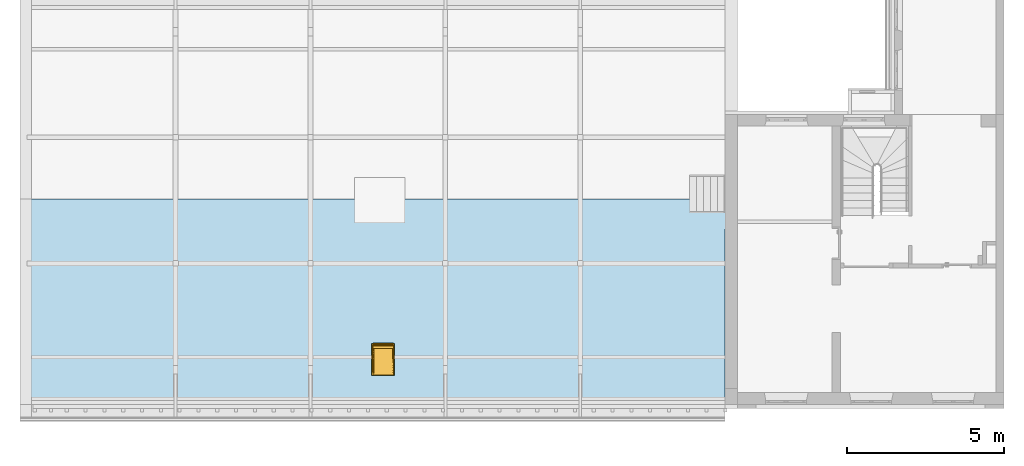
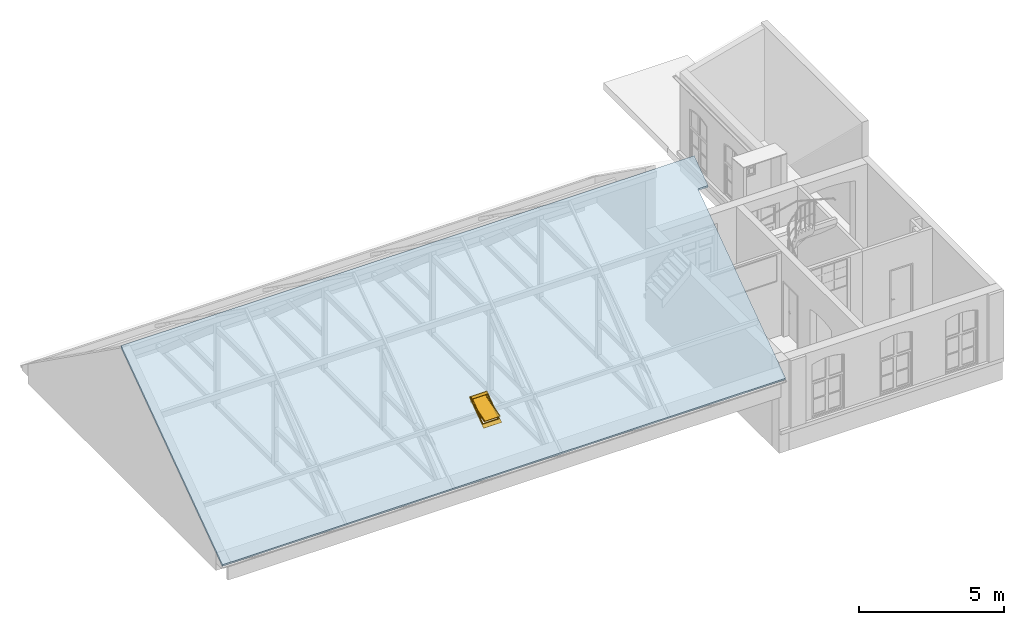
"""IFC4 building model written with IfcOpenShell, lengths in metres."""

import ifcopenshell
import ifcopenshell.guid

model = None  # the IFC model being written
_history = None  # IfcOwnerHistory: only IFC2X3 demands one
_inside = {}  # id of a spatial element -> (the spatial element, [elements in it])
_under = {}  # id of a project, library or spatial element -> (it, [spatial elements below it])
_declared = {}  # id of a project -> (the project, [libraries it declares])
_typed = {}  # id of a type object -> (the type object, [elements of that type])
_made_of = {}  # id of a material, layer set ... -> (it, [elements and type objects made of it])


def new_model(schema):
    """Start an empty IFC model of exactly this schema.

    Asked for "IFC4X3", IfcOpenShell would pick the latest addendum, in which some entities
    have other attributes; the version numbers below select the first issue.
    IFC2X3 requires an IfcOwnerHistory on every rooted entity: one is made here for all.
    """
    global model, _history
    if schema == "IFC4X3":
        model = ifcopenshell.file(schema_version=(4, 3, 0, 0))
    else:
        model = ifcopenshell.file(schema=schema)
    _inside.clear()
    _under.clear()
    _declared.clear()
    _typed.clear()
    _made_of.clear()
    _history = None
    if model.schema == "IFC2X3":
        org = make("IfcOrganization", Name="unknown")
        user = make(
            "IfcPersonAndOrganization",
            ThePerson=make("IfcPerson", FamilyName="unknown"),
            TheOrganization=org,
        )
        app = make(
            "IfcApplication",
            ApplicationDeveloper=org,
            Version="unknown",
            ApplicationFullName="unknown",
            ApplicationIdentifier="unknown",
        )
        _history = make(
            "IfcOwnerHistory",
            OwningUser=user,
            OwningApplication=app,
            ChangeAction="ADDED",
            CreationDate=0,
        )
    return model


def make(cls, **values):
    """One entity of the class cls with the attributes given. An attribute that is None is left unset."""
    return model.create_entity(
        cls, **{name: value for name, value in values.items() if value is not None}
    )


def entity(cls, *values):
    """Any entity or typed value of the class cls, its attributes in the order of the schema. None: left unset."""
    e = model.create_entity(cls)
    for i, value in enumerate(values):
        if value is not None:
            e[i] = value
    return e


def rooted(cls, **values):
    """An entity with a GlobalId (a new one), such as an element, a storey or a relation."""
    return make(cls, GlobalId=ifcopenshell.guid.new(), OwnerHistory=_history, **values)


def si_unit(unit_type, name, prefix=None):
    """IfcSIUnit, for example si_unit("LENGTHUNIT", "METRE", prefix="MILLI")."""
    return make("IfcSIUnit", UnitType=unit_type, Prefix=prefix, Name=name)


def converted_unit(unit_type, name, factor, base, dimensions=None, offset=None):
    """IfcConversionBasedUnit, such as the inch: factor (a typed value) times the base unit."""
    return make(
        "IfcConversionBasedUnit"
        if offset is None
        else "IfcConversionBasedUnitWithOffset",
        ConversionOffset=offset,
        Dimensions=None
        if dimensions is None
        else entity("IfcDimensionalExponents", *dimensions),
        UnitType=unit_type,
        Name=name,
        ConversionFactor=make(
            "IfcMeasureWithUnit", ValueComponent=factor, UnitComponent=base
        ),
    )


def derived_unit(unit_type, elements):
    """IfcDerivedUnit: a product of units, each with its exponent."""
    return make(
        "IfcDerivedUnit",
        Elements=[
            make("IfcDerivedUnitElement", Unit=unit, Exponent=power)
            for unit, power in elements
        ],
        UnitType=unit_type,
    )


def assignment(units):
    """IfcUnitAssignment: the units of a project."""
    return None if units is None else make("IfcUnitAssignment", Units=units)


def point(xyz):
    """IfcCartesianPoint."""
    return None if xyz is None else make("IfcCartesianPoint", Coordinates=xyz)


def direction(xyz):
    """IfcDirection."""
    return None if xyz is None else make("IfcDirection", DirectionRatios=xyz)


def frame(location, z_axis=None, x_axis=None):
    """IfcAxis2Placement3D, a coordinate frame: its origin and axes. An axis left out is left unset."""
    return make(
        "IfcAxis2Placement3D",
        Location=point(location),
        Axis=direction(z_axis),
        RefDirection=direction(x_axis),
    )


def frame_2d(location, x_axis=None):
    """IfcAxis2Placement2D, a coordinate frame in the plane: its origin and x axis."""
    return make(
        "IfcAxis2Placement2D", Location=point(location), RefDirection=direction(x_axis)
    )


def origin():
    """The frame at (0, 0, 0) with its axes left unset."""
    return frame((0.0, 0.0, 0.0))


def origin_with_axes():
    """The frame at (0, 0, 0) with the z axis (0, 0, 1) and the x axis (1, 0, 0) written out."""
    return frame((0.0, 0.0, 0.0), z_axis=(0.0, 0.0, 1.0), x_axis=(1.0, 0.0, 0.0))


def place(relative_to, where):
    """IfcLocalPlacement: puts the frame where relative to a parent placement (None: the world)."""
    return make(
        "IfcLocalPlacement", PlacementRelTo=relative_to, RelativePlacement=where
    )


def context(
    kind, dimensions, precision=None, world=None, true_north=None, identifier=None
):
    """IfcGeometricRepresentationContext, for example the 3D "Model" context."""
    return make(
        "IfcGeometricRepresentationContext",
        ContextIdentifier=identifier,
        ContextType=kind,
        CoordinateSpaceDimension=dimensions,
        Precision=precision,
        WorldCoordinateSystem=world,
        TrueNorth=true_north,
    )


def subcontext(parent, identifier, kind, view, scale=None):
    """IfcGeometricRepresentationSubContext, for example "Body" below "Model"."""
    return make(
        "IfcGeometricRepresentationSubContext",
        ContextIdentifier=identifier,
        ContextType=kind,
        ParentContext=parent,
        TargetScale=scale,
        TargetView=view,
    )


def project(units=None, contexts=None):
    """IfcProject with its units and contexts."""
    return rooted(
        "IfcProject",
        Name="project",
        RepresentationContexts=contexts,
        UnitsInContext=assignment(units),
    )


def spatial(cls, under=None, at=None, **own):
    """A site, building, storey or space (cls), placed at a placement, below another one or the project."""
    s = rooted(cls, ObjectPlacement=at, **own)
    if under is not None:
        _under.setdefault(under.id(), (under, []))[1].append(s)
    return s


def profile(cls, at=None, kind="AREA", **sizes):
    """A parametric profile (cls). Its sizes go by their IFC names, for example OverallWidth=200.0."""
    return make(cls, ProfileType=kind, Position=at, **sizes)


def rectangle(**sizes):
    """IfcRectangleProfileDef."""
    return profile("IfcRectangleProfileDef", **sizes)


def extrude(swept, where, along, depth):
    """IfcExtrudedAreaSolid: the profile swept, set in the frame where, extruded along a direction by depth."""
    return make(
        "IfcExtrudedAreaSolid",
        SweptArea=swept,
        Position=where,
        ExtrudedDirection=direction(along),
        Depth=depth,
    )


def faces_of(points, faces, orient=None, outer=None):
    """IfcFace entities. A face is a list of loops; a loop is a list of indices into points, from 0.

    orient and outer hold one flag for each loop. By default every Orientation is true, the
    first loop of a face is its IfcFaceOuterBound and the others are IfcFaceBound.
    """
    made = []
    for i, loops in enumerate(faces):
        bounds = []
        for j, loop in enumerate(loops):
            is_outer = j == 0 if outer is None else outer[i][j]
            bounds.append(
                make(
                    "IfcFaceOuterBound" if is_outer else "IfcFaceBound",
                    Bound=make("IfcPolyLoop", Polygon=[points[k] for k in loop]),
                    Orientation=True if orient is None else orient[i][j],
                )
            )
        made.append(make("IfcFace", Bounds=bounds))
    return made


def closed_shell(faces, orient=None, outer=None):
    """The faces of one IfcClosedShell. faceted_brep and surface_model build it on their shared points."""
    return ("IfcClosedShell", faces, orient, outer)


def open_shell(faces, orient=None, outer=None):
    """The faces of one IfcOpenShell. surface_model builds it on its shared points."""
    return ("IfcOpenShell", faces, orient, outer)


def faceted_brep(points, faces, orient=None, outer=None, voids=None):
    """IfcFacetedBrep: a solid bounded by flat faces; with voids (closed shells), ...WithVoids."""
    shared = [point(p) for p in points]
    hull = make("IfcClosedShell", CfsFaces=faces_of(shared, faces, orient, outer))
    if voids is None:
        return make("IfcFacetedBrep", Outer=hull)
    return make(
        "IfcFacetedBrepWithVoids",
        Outer=hull,
        Voids=[
            make(cls, CfsFaces=faces_of(shared, fs, o, b)) for cls, fs, o, b in voids
        ],
    )


def surface_model(cls, points, shells):
    """IfcFaceBasedSurfaceModel or IfcShellBasedSurfaceModel (cls): surfaces that need not close."""
    shared = [point(p) for p in points]
    made = [make(c, CfsFaces=faces_of(shared, fs, o, b)) for c, fs, o, b in shells]
    if cls == "IfcFaceBasedSurfaceModel":
        return make(cls, FbsmFaces=made)
    return make(cls, SbsmBoundary=made)


def shape(context_of_items, identifier, shape_type, items):
    """IfcShapeRepresentation: the items that make up one representation, for example the "Body"."""
    return make(
        "IfcShapeRepresentation",
        ContextOfItems=context_of_items,
        RepresentationIdentifier=identifier,
        RepresentationType=shape_type,
        Items=items,
    )


def source(mapping_origin, context_of_items, identifier, shape_type, items):
    """IfcRepresentationMap: a shape defined once, which mapped items show again and again."""
    return make(
        "IfcRepresentationMap",
        MappingOrigin=mapping_origin,
        MappedRepresentation=shape(context_of_items, identifier, shape_type, items),
    )


def transform(
    local_origin,
    x_axis=None,
    y_axis=None,
    z_axis=None,
    scale=None,
    scale2=None,
    scale3=None,
    uniform=True,
):
    """IfcCartesianTransformationOperator3D, or its non-uniform kind. x_axis, y_axis, z_axis: its Axis1, 2, 3."""
    if uniform:
        return make(
            "IfcCartesianTransformationOperator3D",
            Axis1=direction(x_axis),
            Axis2=direction(y_axis),
            LocalOrigin=point(local_origin),
            Scale=scale,
            Axis3=direction(z_axis),
        )
    return make(
        "IfcCartesianTransformationOperator3DnonUniform",
        Axis1=direction(x_axis),
        Axis2=direction(y_axis),
        LocalOrigin=point(local_origin),
        Scale=scale,
        Axis3=direction(z_axis),
        Scale2=scale2,
        Scale3=scale3,
    )


def mapped(mapping_source, mapping_target):
    """IfcMappedItem: shows the shape of a source again, moved by a transform."""
    return make(
        "IfcMappedItem", MappingSource=mapping_source, MappingTarget=mapping_target
    )


def made_of(thing, what):
    """Note that an element or type object is made of a material, layer set ...; save() writes the relation."""
    if what is not None:
        _made_of.setdefault(what.id(), (what, []))[1].append(thing)
    return thing


def element(
    cls,
    number,
    at=None,
    inside=None,
    cuts=None,
    type_object=None,
    material=None,
    context=None,
    identifier="Body",
    shape_type=None,
    held_by="IfcProductDefinitionShape",
    body=None,
    shapes=None,
    **own,
):
    """One element of the class cls, such as IfcWall. Its Tag is "e" and its number.

    at: its placement. inside: the storey or other place that contains it. cuts: it is an
    opening in that element (IfcRelVoidsElement). A single representation is given by context,
    identifier, shape_type and body (its items); several are given by shapes. held_by: the class
    of the entity that holds the representations. save() writes the other relations.
    """
    e = rooted(cls, Tag="e%d" % number, ObjectPlacement=at, **own)
    if body is not None:
        shapes = [shape(context, identifier, shape_type, body)]
    if shapes is not None:
        e.Representation = make(held_by, Representations=shapes)
    if inside is not None:
        _inside.setdefault(inside.id(), (inside, []))[1].append(e)
    if cuts is not None:
        rooted(
            "IfcRelVoidsElement", RelatingBuildingElement=cuts, RelatedOpeningElement=e
        )
    if type_object is not None:
        _typed.setdefault(type_object.id(), (type_object, []))[1].append(e)
    return made_of(e, material)


def fill(opening, filler):
    """IfcRelFillsElement: the door or window that sits in an opening."""
    return rooted(
        "IfcRelFillsElement",
        RelatingOpeningElement=opening,
        RelatedBuildingElement=filler,
    )


def aggregate(whole, parts):
    """IfcRelAggregates: a whole, such as a stair, and the parts it consists of."""
    return rooted("IfcRelAggregates", RelatingObject=whole, RelatedObjects=parts)


def save(model, path):
    """Write the relations noted so far, then the file.

    IfcRelAggregates (storeys below a building ...), IfcRelContainedInSpatialStructure (elements
    in a storey), IfcRelDefinesByType, IfcRelAssociatesMaterial and IfcRelDeclares: one each for
    every whole, place, type object, material and project.
    """
    for whole, parts in _under.values():
        aggregate(whole, parts)
    for where, things in _inside.values():
        rooted(
            "IfcRelContainedInSpatialStructure",
            RelatedElements=things,
            RelatingStructure=where,
        )
    for kind, things in _typed.values():
        rooted("IfcRelDefinesByType", RelatedObjects=things, RelatingType=kind)
    for what, things in _made_of.values():
        rooted("IfcRelAssociatesMaterial", RelatedObjects=things, RelatingMaterial=what)
    for by, libraries in _declared.values():
        rooted("IfcRelDeclares", RelatingContext=by, RelatedDefinitions=libraries)
    model.write(path)


model = new_model("IFC4")

# Units and contexts
model_context = context("Model", 3, precision=1e-05, world=origin())
body_context = subcontext(model_context, "Body", "Model", "MODEL_VIEW")
ifc_project = project(units=[si_unit("LENGTHUNIT", "METRE"), si_unit("AREAUNIT", "SQUARE_METRE"), si_unit("VOLUMEUNIT", "CUBIC_METRE"), si_unit("MASSUNIT", "GRAM", prefix="KILO"), converted_unit("PLANEANGLEUNIT", "DEGREE", entity("IfcPlaneAngleMeasure", 0.0174532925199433), si_unit("PLANEANGLEUNIT", "RADIAN"), dimensions=[0, 0, 0, 0, 0, 0, 0]), derived_unit("THERMALTRANSMITTANCEUNIT", [(si_unit("POWERUNIT", "WATT"), 1), (si_unit("THERMODYNAMICTEMPERATUREUNIT", "KELVIN"), -1), (si_unit("LENGTHUNIT", "METRE"), -2)]), derived_unit("VOLUMETRICFLOWRATEUNIT", [(si_unit("LENGTHUNIT", "METRE"), 3), (converted_unit("TIMEUNIT", "hour", entity("IfcTimeMeasure", 3600.0), si_unit("TIMEUNIT", "SECOND"), dimensions=[0, 0, 1, 0, 0, 0, 0]), -1), (si_unit("LENGTHUNIT", "METRE"), -1)])], contexts=[model_context])

# Building, storeys
building_placement = place(None, origin())
building = spatial("IfcBuilding", under=ifc_project, at=building_placement, Name="Bestandsgebäude A - Sporthalle / Wohnhaus (TB 100-499)   ANPASSEN !!!", CompositionType="ELEMENT")
storey_1_placement = place(building_placement, frame((0.0, 0.0, 3.87)))
storey_1 = spatial("IfcBuildingStorey", under=building, at=storey_1_placement, Name="Geb. A 1. Obergeschoss (TB 250-299)", CompositionType="ELEMENT", Elevation=3.87)
storey_2_placement = place(storey_1_placement, frame((0.0, 0.0, 3.87)))
storey_2 = spatial("IfcBuildingStorey", under=storey_1, at=storey_2_placement, Name="Architektur (TB 250-259)", CompositionType="PARTIAL")

# Roof, slab, opening, window
roof_placement = place(storey_2_placement, frame((0.0, 0.0, -7.74)))
roof = element("IfcRoof", 1, at=roof_placement, inside=storey_2, PredefinedType="NOTDEFINED")
slab_placement = place(roof_placement, frame((-31.3703148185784, -0.453195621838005, 6.85488719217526)))
slab = element("IfcSlab", 2, at=slab_placement, PredefinedType="ROOF", context=body_context, shape_type="Brep", body=[
    faceted_brep([(0.0, 7.01291443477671, 4.96182439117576), (0.000315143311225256, 0.0464107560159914, 0.0), (22.4705579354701, 0.0499999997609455, 0.00255640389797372), (22.4704045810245, 6.10341097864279, 4.31403941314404), (22.8703148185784, 6.10341097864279, 4.31403941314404), (22.8703148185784, 7.01291526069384, 4.96182497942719), (11.9017244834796, 1.55984100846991, 1.07792595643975), (11.2517244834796, 1.55984100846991, 1.07792595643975), (11.2517244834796, 2.41508777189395, 1.68706713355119), (11.9017244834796, 2.41508777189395, 1.68706713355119), (0.0, 7.01291443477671, 5.06004165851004), (22.8703148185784, 7.01291526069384, 5.06004224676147), (22.8703148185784, 6.05700022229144, 4.37920107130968), (22.4704057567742, 6.05700022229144, 4.37920107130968), (22.4705591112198, 0.00358924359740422, 0.0677180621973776), (0.000317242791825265, 0.0, 0.065161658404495), (11.2517244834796, 1.51343025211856, 1.14308761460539), (11.9017244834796, 1.51343025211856, 1.14308761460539), (11.9017244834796, 2.3686770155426, 1.75222879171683), (11.2517244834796, 2.3686770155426, 1.75222879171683), (0.000317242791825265, 0.0, 0.0), (22.4704057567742, 6.05700022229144, 4.31403941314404), (22.4705591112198, 0.00358924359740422, 0.00255640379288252), (22.8703148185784, 6.05700022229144, 4.31403941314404)], [[[0, 1, 2, 3, 4, 5], [6, 7, 8, 9]], [[10, 11, 12, 13, 14, 15], [16, 17, 18, 19]], [[10, 15, 20, 1, 0]], [[14, 13, 21, 3, 2, 22]], [[12, 11, 5, 4, 23]], [[11, 10, 0, 5]], [[20, 22, 2, 1]], [[15, 14, 22, 20]], [[21, 23, 4, 3]], [[13, 12, 23, 21]], [[16, 7, 6, 17]], [[18, 9, 8, 19]], [[16, 19, 8, 7]], [[18, 17, 6, 9]]], orient=[[False, False], [False, False], [False], [False], [False], [False], [False], [False], [False], [False], [False], [False], [False], [False]]),
])
opening_placement = place(slab_placement, frame((11.2517244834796, 1.51343025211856, 1.14308761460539), z_axis=(-2.34464702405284e-16, -0.58013445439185, 0.814520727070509), x_axis=(-1.0, 4.04155796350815e-16, 0.0)))
opening = element("IfcOpeningElement", 3, at=opening_placement, cuts=slab, Name="Skylight", ObjectType="Opening", context=body_context, shape_type="SweptSolid", body=[
    extrude(rectangle(XDim=0.65, YDim=1.05, at=frame_2d((-0.325, -0.525), x_axis=(-1.0, 3.49805654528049e-16))), origin_with_axes(), (0.0, 0.0, -1.0), 0.08),
])
shared_shape = source(origin_with_axes(), body_context, "Body", "SurfaceModel", [
    surface_model("IfcShellBasedSurfaceModel", [(0.03, 0.15, 0.226476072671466), (0.03, 0.15, 0.266476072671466), (0.049999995, 0.15, 0.266476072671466), (0.049999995, 0.15, 0.226476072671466), (0.03, 1.22, 0.266476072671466), (0.03, 1.22, 0.226476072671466), (0.049999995, 1.22, 0.226476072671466), (0.049999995, 1.22, 0.266476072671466)], [closed_shell([[[0, 1, 2, 3]], [[4, 5, 6, 7]], [[1, 0, 5, 4]], [[2, 1, 4, 7]], [[3, 2, 7, 6]], [[0, 3, 6, 5]]], orient=[[False], [False], [False], [False], [False], [False]])]),
    surface_model("IfcShellBasedSurfaceModel", [(0.680000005, 0.15, 0.226476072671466), (0.680000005, 0.15, 0.266476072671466), (0.7, 0.15, 0.266476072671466), (0.7, 0.15, 0.226476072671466), (0.680000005, 1.22, 0.266476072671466), (0.680000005, 1.22, 0.226476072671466), (0.7, 1.22, 0.226476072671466), (0.7, 1.22, 0.266476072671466)], [closed_shell([[[0, 1, 2, 3]], [[4, 5, 6, 7]], [[1, 0, 5, 4]], [[2, 1, 4, 7]], [[3, 2, 7, 6]], [[0, 3, 6, 5]]], orient=[[False], [False], [False], [False], [False], [False]])]),
    surface_model("IfcShellBasedSurfaceModel", [(0.049999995, 0.15, 0.226476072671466), (0.049999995, 0.15, 0.261476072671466), (0.680000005, 0.15, 0.261476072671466), (0.680000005, 0.15, 0.226476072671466), (0.049999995, 0.169999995, 0.261476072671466), (0.049999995, 0.169999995, 0.226476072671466), (0.680000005, 0.169999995, 0.226476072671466), (0.680000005, 0.169999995, 0.261476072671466)], [closed_shell([[[0, 1, 2, 3]], [[4, 5, 6, 7]], [[1, 0, 5, 4]], [[2, 1, 4, 7]], [[3, 2, 7, 6]], [[0, 3, 6, 5]]], orient=[[False], [False], [False], [False], [False], [False]])]),
    surface_model("IfcShellBasedSurfaceModel", [(0.049999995, 1.200000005, 0.226476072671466), (0.049999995, 1.200000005, 0.266476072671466), (0.680000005, 1.200000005, 0.266476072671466), (0.680000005, 1.200000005, 0.226476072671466), (0.049999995, 1.22, 0.266476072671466), (0.049999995, 1.22, 0.226476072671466), (0.680000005, 1.22, 0.226476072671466), (0.680000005, 1.22, 0.266476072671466)], [closed_shell([[[0, 1, 2, 3]], [[4, 5, 6, 7]], [[1, 0, 5, 4]], [[2, 1, 4, 7]], [[3, 2, 7, 6]], [[0, 3, 6, 5]]], orient=[[False], [False], [False], [False], [False], [False]])]),
    surface_model("IfcShellBasedSurfaceModel", [(0.0, 0.0, 0.226476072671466), (0.0, 0.0, 0.231476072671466), (0.03, 0.0, 0.231476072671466), (0.03, 0.0, 0.226476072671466), (0.0, 1.22, 0.231476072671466), (0.0, 1.22, 0.226476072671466), (0.03, 1.22, 0.226476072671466), (0.03, 1.22, 0.231476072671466)], [closed_shell([[[0, 1, 2, 3]], [[4, 5, 6, 7]], [[1, 0, 5, 4]], [[2, 1, 4, 7]], [[3, 2, 7, 6]], [[0, 3, 6, 5]]], orient=[[False], [False], [False], [False], [False], [False]])]),
    surface_model("IfcShellBasedSurfaceModel", [(0.03, 0.0, 0.226476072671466), (0.03, 0.0, 0.231476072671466), (0.7, 0.0, 0.231476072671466), (0.7, 0.0, 0.226476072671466), (0.03, 0.15, 0.231476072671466), (0.03, 0.15, 0.226476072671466), (0.7, 0.15, 0.226476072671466), (0.7, 0.15, 0.231476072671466)], [closed_shell([[[0, 1, 2, 3]], [[4, 5, 6, 7]], [[1, 0, 5, 4]], [[2, 1, 4, 7]], [[3, 2, 7, 6]], [[0, 3, 6, 5]]], orient=[[False], [False], [False], [False], [False], [False]])]),
    surface_model("IfcShellBasedSurfaceModel", [(0.7, 0.0, 0.226476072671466), (0.7, 0.0, 0.231476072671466), (0.73, 0.0, 0.231476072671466), (0.73, 0.0, 0.226476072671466), (0.7, 1.22, 0.231476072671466), (0.7, 1.22, 0.226476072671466), (0.73, 1.22, 0.226476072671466), (0.73, 1.22, 0.231476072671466)], [closed_shell([[[0, 1, 2, 3]], [[4, 5, 6, 7]], [[1, 0, 5, 4]], [[2, 1, 4, 7]], [[3, 2, 7, 6]], [[0, 3, 6, 5]]], orient=[[False], [False], [False], [False], [False], [False]])]),
    surface_model("IfcShellBasedSurfaceModel", [(0.0, 1.22, 0.226476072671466), (0.0, 1.22, 0.231476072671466), (0.73, 1.22, 0.231476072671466), (0.73, 1.22, 0.226476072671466), (0.0, 1.25, 0.231476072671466), (0.0, 1.25, 0.226476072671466), (0.73, 1.25, 0.226476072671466), (0.73, 1.25, 0.231476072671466)], [closed_shell([[[0, 1, 2, 3]], [[4, 5, 6, 7]], [[1, 0, 5, 4]], [[2, 1, 4, 7]], [[3, 2, 7, 6]], [[0, 3, 6, 5]]], orient=[[False], [False], [False], [False], [False], [False]])]),
    surface_model("IfcShellBasedSurfaceModel", [(0.049999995, 0.17999999, 0.226476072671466), (0.049999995, 0.17999999, 0.266476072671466), (0.05999999, 0.17999999, 0.266476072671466), (0.05999999, 0.17999999, 0.126476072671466), (0.04, 0.17999999, 0.126476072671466), (0.04, 0.17999999, 0.226476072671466), (0.049999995, 1.19000001, 0.266476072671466), (0.049999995, 1.19000001, 0.226476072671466), (0.04, 1.19000001, 0.226476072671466), (0.04, 1.19000001, 0.126476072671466), (0.05999999, 1.19000001, 0.126476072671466), (0.05999999, 1.19000001, 0.266476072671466)], [closed_shell([[[0, 1, 2, 3, 4, 5]], [[6, 7, 8, 9, 10, 11]], [[1, 0, 7, 6]], [[2, 1, 6, 11]], [[3, 2, 11, 10]], [[4, 3, 10, 9]], [[5, 4, 9, 8]], [[0, 5, 8, 7]]], orient=[[False], [False], [False], [False], [False], [False], [False], [False]])]),
    surface_model("IfcShellBasedSurfaceModel", [(0.67000001, 0.17999999, 0.126476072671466), (0.67000001, 0.17999999, 0.266476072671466), (0.680000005, 0.17999999, 0.266476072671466), (0.680000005, 0.17999999, 0.226476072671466), (0.69, 0.17999999, 0.226476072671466), (0.69, 0.17999999, 0.126476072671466), (0.67000001, 1.19000001, 0.266476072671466), (0.67000001, 1.19000001, 0.126476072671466), (0.69, 1.19000001, 0.126476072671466), (0.69, 1.19000001, 0.226476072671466), (0.680000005, 1.19000001, 0.226476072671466), (0.680000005, 1.19000001, 0.266476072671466)], [closed_shell([[[0, 1, 2, 3, 4, 5]], [[6, 7, 8, 9, 10, 11]], [[1, 0, 7, 6]], [[2, 1, 6, 11]], [[3, 2, 11, 10]], [[4, 3, 10, 9]], [[5, 4, 9, 8]], [[0, 5, 8, 7]]], orient=[[False], [False], [False], [False], [False], [False], [False], [False]])]),
    surface_model("IfcShellBasedSurfaceModel", [(0.04, 0.17999999, 0.261476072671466), (0.04, 0.169999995, 0.261476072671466), (0.04, 0.169999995, 0.226476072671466), (0.04, 0.16, 0.226476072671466), (0.04, 0.16, 0.126476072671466), (0.04, 0.17999999, 0.126476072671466), (0.69, 0.169999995, 0.261476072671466), (0.69, 0.17999999, 0.261476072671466), (0.69, 0.17999999, 0.126476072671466), (0.69, 0.16, 0.126476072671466), (0.69, 0.16, 0.226476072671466), (0.69, 0.169999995, 0.226476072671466)], [closed_shell([[[0, 1, 2, 3, 4, 5]], [[6, 7, 8, 9, 10, 11]], [[1, 0, 7, 6]], [[2, 1, 6, 11]], [[3, 2, 11, 10]], [[4, 3, 10, 9]], [[5, 4, 9, 8]], [[0, 5, 8, 7]]], orient=[[False], [False], [False], [False], [False], [False], [False], [False]])]),
    surface_model("IfcShellBasedSurfaceModel", [(0.04, 1.200000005, 0.266476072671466), (0.04, 1.19000001, 0.266476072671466), (0.04, 1.19000001, 0.126476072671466), (0.04, 1.21, 0.126476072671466), (0.04, 1.21, 0.226476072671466), (0.04, 1.200000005, 0.226476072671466), (0.69, 1.19000001, 0.266476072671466), (0.69, 1.200000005, 0.266476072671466), (0.69, 1.200000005, 0.226476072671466), (0.69, 1.21, 0.226476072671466), (0.69, 1.21, 0.126476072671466), (0.69, 1.19000001, 0.126476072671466)], [closed_shell([[[0, 1, 2, 3, 4, 5]], [[6, 7, 8, 9, 10, 11]], [[1, 0, 7, 6]], [[2, 1, 6, 11]], [[3, 2, 11, 10]], [[4, 3, 10, 9]], [[5, 4, 9, 8]], [[0, 5, 8, 7]]], orient=[[False], [False], [False], [False], [False], [False], [False], [False]])]),
    surface_model("IfcShellBasedSurfaceModel", [(0.03999999, 0.685, 0.266476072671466), (0.03999999, 0.685, 0.281476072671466), (0.06999999, 0.685, 0.281476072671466), (0.06999999, 0.685, 0.266476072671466), (0.03999999, 1.19000001, 0.281476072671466), (0.03999999, 1.19000001, 0.266476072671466), (0.06999999, 1.19000001, 0.266476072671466), (0.06999999, 1.19000001, 0.281476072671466)], [closed_shell([[[0, 1, 2, 3]], [[4, 5, 6, 7]], [[1, 0, 5, 4]], [[2, 1, 4, 7]], [[3, 2, 7, 6]], [[0, 3, 6, 5]]], orient=[[False], [False], [False], [False], [False], [False]])]),
    surface_model("IfcShellBasedSurfaceModel", [(0.66000001, 0.685, 0.266476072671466), (0.66000001, 0.685, 0.281476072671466), (0.69000001, 0.685, 0.281476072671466), (0.69000001, 0.685, 0.266476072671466), (0.66000001, 1.19000001, 0.281476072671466), (0.66000001, 1.19000001, 0.266476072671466), (0.69000001, 1.19000001, 0.266476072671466), (0.69000001, 1.19000001, 0.281476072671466)], [closed_shell([[[0, 1, 2, 3]], [[4, 5, 6, 7]], [[1, 0, 5, 4]], [[2, 1, 4, 7]], [[3, 2, 7, 6]], [[0, 3, 6, 5]]], orient=[[False], [False], [False], [False], [False], [False]])]),
    surface_model("IfcShellBasedSurfaceModel", [(0.04, 1.11000001, 0.266476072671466), (0.04, 1.11000001, 0.306476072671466), (0.69, 1.11000001, 0.306476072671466), (0.69, 1.11000001, 0.266476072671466), (0.04, 1.21, 0.306476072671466), (0.04, 1.21, 0.266476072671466), (0.69, 1.21, 0.266476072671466), (0.69, 1.21, 0.306476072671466)], [closed_shell([[[0, 1, 2, 3]], [[4, 5, 6, 7]], [[1, 0, 5, 4]], [[2, 1, 4, 7]], [[3, 2, 7, 6]], [[0, 3, 6, 5]]], orient=[[False], [False], [False], [False], [False], [False]])]),
    surface_model("IfcShellBasedSurfaceModel", [(0.07999998, 0.218329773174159, 0.41470583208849), (0.65000002, 0.218329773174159, 0.41470583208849), (0.65000002, 1.08379123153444, 0.133500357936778), (0.07999998, 1.08379123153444, 0.133500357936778)], [open_shell([[[0, 1, 2, 3]]], orient=[[False]])]),
    surface_model("IfcShellBasedSurfaceModel", [(0.069999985, 0.208046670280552, 0.415418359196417), (0.069999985, 0.209591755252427, 0.420173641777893), (0.07999998, 0.209591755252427, 0.420173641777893), (0.07999998, 0.208046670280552, 0.415418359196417), (0.069999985, 1.09407433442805, 0.132787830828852), (0.069999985, 1.09252924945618, 0.128032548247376), (0.07999998, 1.09252924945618, 0.128032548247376), (0.07999998, 1.09407433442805, 0.132787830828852)], [closed_shell([[[0, 1, 2, 3]], [[4, 5, 6, 7]], [[1, 0, 5, 4]], [[2, 1, 4, 7]], [[3, 2, 7, 6]], [[0, 3, 6, 5]]], orient=[[False], [False], [False], [False], [False], [False]])]),
    surface_model("IfcShellBasedSurfaceModel", [(0.65000002, 0.208046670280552, 0.415418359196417), (0.65000002, 0.209591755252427, 0.420173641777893), (0.660000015, 0.209591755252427, 0.420173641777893), (0.660000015, 0.208046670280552, 0.415418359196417), (0.65000002, 1.09407433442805, 0.132787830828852), (0.65000002, 1.09252924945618, 0.128032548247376), (0.660000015, 1.09252924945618, 0.128032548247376), (0.660000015, 1.09407433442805, 0.132787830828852)], [closed_shell([[[0, 1, 2, 3]], [[4, 5, 6, 7]], [[1, 0, 5, 4]], [[2, 1, 4, 7]], [[3, 2, 7, 6]], [[0, 3, 6, 5]]], orient=[[False], [False], [False], [False], [False], [False]])]),
    surface_model("IfcShellBasedSurfaceModel", [(0.07999998, 0.208046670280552, 0.415418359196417), (0.07999998, 0.209591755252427, 0.420173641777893), (0.65000002, 0.209591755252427, 0.420173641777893), (0.65000002, 0.208046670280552, 0.415418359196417), (0.07999998, 0.219102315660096, 0.417083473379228), (0.07999998, 0.217557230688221, 0.412328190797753), (0.65000002, 0.217557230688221, 0.412328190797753), (0.65000002, 0.219102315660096, 0.417083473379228)], [closed_shell([[[0, 1, 2, 3]], [[4, 5, 6, 7]], [[1, 0, 5, 4]], [[2, 1, 4, 7]], [[3, 2, 7, 6]], [[0, 3, 6, 5]]], orient=[[False], [False], [False], [False], [False], [False]])]),
    surface_model("IfcShellBasedSurfaceModel", [(0.07999998, 1.08301868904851, 0.131122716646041), (0.07999998, 1.08456377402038, 0.135877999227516), (0.65000002, 1.08456377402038, 0.135877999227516), (0.65000002, 1.08301868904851, 0.131122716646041), (0.07999998, 1.09407433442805, 0.132787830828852), (0.07999998, 1.09252924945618, 0.128032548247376), (0.65000002, 1.09252924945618, 0.128032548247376), (0.65000002, 1.09407433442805, 0.132787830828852)], [closed_shell([[[0, 1, 2, 3]], [[4, 5, 6, 7]], [[1, 0, 5, 4]], [[2, 1, 4, 7]], [[3, 2, 7, 6]], [[0, 3, 6, 5]]], orient=[[False], [False], [False], [False], [False], [False]])]),
    surface_model("IfcShellBasedSurfaceModel", [(0.05999999, 0.175359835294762, 0.347179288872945), (0.05999999, 0.200081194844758, 0.423263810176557), (0.069999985, 0.200081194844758, 0.423263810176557), (0.069999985, 0.198536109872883, 0.418508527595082), (0.07999998, 0.198536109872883, 0.418508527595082), (0.07999998, 0.175359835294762, 0.347179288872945), (0.05999999, 1.16064829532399, 0.111156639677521), (0.05999999, 1.135926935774, 0.0350721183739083), (0.07999998, 1.135926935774, 0.0350721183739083), (0.07999998, 1.15910321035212, 0.106401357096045), (0.069999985, 1.15910321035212, 0.106401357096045), (0.069999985, 1.16064829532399, 0.111156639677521)], [closed_shell([[[0, 1, 2, 3, 4, 5]], [[6, 7, 8, 9, 10, 11]], [[1, 0, 7, 6]], [[2, 1, 6, 11]], [[3, 2, 11, 10]], [[4, 3, 10, 9]], [[5, 4, 9, 8]], [[0, 5, 8, 7]]], orient=[[False], [False], [False], [False], [False], [False], [False], [False]])]),
    surface_model("IfcShellBasedSurfaceModel", [(0.660000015, 0.198536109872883, 0.418508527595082), (0.660000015, 0.200081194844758, 0.423263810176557), (0.67000001, 0.200081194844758, 0.423263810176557), (0.67000001, 0.175359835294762, 0.347179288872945), (0.65000002, 0.175359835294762, 0.347179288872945), (0.65000002, 0.198536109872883, 0.418508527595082), (0.660000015, 1.16064829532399, 0.111156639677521), (0.660000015, 1.15910321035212, 0.106401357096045), (0.65000002, 1.15910321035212, 0.106401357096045), (0.65000002, 1.135926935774, 0.0350721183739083), (0.67000001, 1.135926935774, 0.0350721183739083), (0.67000001, 1.16064829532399, 0.111156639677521)], [closed_shell([[[0, 1, 2, 3, 4, 5]], [[6, 7, 8, 9, 10, 11]], [[1, 0, 7, 6]], [[2, 1, 6, 11]], [[3, 2, 11, 10]], [[4, 3, 10, 9]], [[5, 4, 9, 8]], [[0, 5, 8, 7]]], orient=[[False], [False], [False], [False], [False], [False], [False], [False]])]),
    surface_model("IfcShellBasedSurfaceModel", [(0.07999998, 0.175359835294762, 0.347179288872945), (0.07999998, 0.198536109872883, 0.418508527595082), (0.65000002, 0.198536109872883, 0.418508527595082), (0.65000002, 0.175359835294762, 0.347179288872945), (0.07999998, 0.217557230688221, 0.412328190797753), (0.07999998, 0.1943809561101, 0.340998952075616), (0.65000002, 0.1943809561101, 0.340998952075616), (0.65000002, 0.217557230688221, 0.412328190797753)], [closed_shell([[[0, 1, 2, 3]], [[4, 5, 6, 7]], [[1, 0, 5, 4]], [[2, 1, 4, 7]], [[3, 2, 7, 6]], [[0, 3, 6, 5]]], orient=[[False], [False], [False], [False], [False], [False]])]),
    surface_model("IfcShellBasedSurfaceModel", [(0.07999998, 1.05984241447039, 0.059793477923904), (0.07999998, 1.08301868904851, 0.131122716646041), (0.65000002, 1.08301868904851, 0.131122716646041), (0.65000002, 1.05984241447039, 0.059793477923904), (0.07999998, 1.15910321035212, 0.106401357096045), (0.07999998, 1.135926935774, 0.0350721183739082), (0.65000002, 1.135926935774, 0.0350721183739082), (0.65000002, 1.15910321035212, 0.106401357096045)], [closed_shell([[[0, 1, 2, 3]], [[4, 5, 6, 7]], [[1, 0, 5, 4]], [[2, 1, 4, 7]], [[3, 2, 7, 6]], [[0, 3, 6, 5]]], orient=[[False], [False], [False], [False], [False], [False]])]),
    surface_model("IfcShellBasedSurfaceModel", [(0.05999999, 1.06471772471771, 0.0424374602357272), (0.05999999, 1.06935297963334, 0.0567033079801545), (0.67000001, 1.06935297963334, 0.0567033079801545), (0.67000001, 1.06471772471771, 0.0424374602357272), (0.05999999, 1.12641637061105, 0.0381622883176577), (0.05999999, 1.12178111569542, 0.0238964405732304), (0.67000001, 1.12178111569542, 0.0238964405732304), (0.67000001, 1.12641637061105, 0.0381622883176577)], [closed_shell([[[0, 1, 2, 3]], [[4, 5, 6, 7]], [[1, 0, 5, 4]], [[2, 1, 4, 7]], [[3, 2, 7, 6]], [[0, 3, 6, 5]]], orient=[[False], [False], [False], [False], [False], [False]])]),
    surface_model("IfcShellBasedSurfaceModel", [(0.07499999, 1.07993615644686, 0.0164634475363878), (0.07499999, 1.08611649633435, 0.0354845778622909), (0.08999999, 1.08611649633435, 0.0354845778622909), (0.08999999, 1.07993615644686, 0.0164634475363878), (0.07499999, 1.10038234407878, 0.0308493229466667), (0.07499999, 1.09420200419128, 0.0118281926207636), (0.08999999, 1.09420200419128, 0.0118281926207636), (0.08999999, 1.10038234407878, 0.0308493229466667)], [closed_shell([[[0, 1, 2, 3]], [[4, 5, 6, 7]], [[1, 0, 5, 4]], [[2, 1, 4, 7]], [[3, 2, 7, 6]], [[0, 3, 6, 5]]], orient=[[False], [False], [False], [False], [False], [False]])]),
    surface_model("IfcShellBasedSurfaceModel", [(0.26333333, 1.07993615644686, 0.0164634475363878), (0.26333333, 1.08611649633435, 0.0354845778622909), (0.27833333, 1.08611649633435, 0.0354845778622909), (0.27833333, 1.07993615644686, 0.0164634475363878), (0.26333333, 1.10038234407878, 0.0308493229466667), (0.26333333, 1.09420200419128, 0.0118281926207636), (0.27833333, 1.09420200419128, 0.0118281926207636), (0.27833333, 1.10038234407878, 0.0308493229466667)], [closed_shell([[[0, 1, 2, 3]], [[4, 5, 6, 7]], [[1, 0, 5, 4]], [[2, 1, 4, 7]], [[3, 2, 7, 6]], [[0, 3, 6, 5]]], orient=[[False], [False], [False], [False], [False], [False]])]),
    surface_model("IfcShellBasedSurfaceModel", [(0.45166667, 1.07993615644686, 0.0164634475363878), (0.45166667, 1.08611649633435, 0.0354845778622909), (0.46666667, 1.08611649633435, 0.0354845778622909), (0.46666667, 1.07993615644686, 0.0164634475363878), (0.45166667, 1.10038234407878, 0.0308493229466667), (0.45166667, 1.09420200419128, 0.0118281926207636), (0.46666667, 1.09420200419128, 0.0118281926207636), (0.46666667, 1.10038234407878, 0.0308493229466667)], [closed_shell([[[0, 1, 2, 3]], [[4, 5, 6, 7]], [[1, 0, 5, 4]], [[2, 1, 4, 7]], [[3, 2, 7, 6]], [[0, 3, 6, 5]]], orient=[[False], [False], [False], [False], [False], [False]])]),
    surface_model("IfcShellBasedSurfaceModel", [(0.64000001, 1.07993615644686, 0.0164634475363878), (0.64000001, 1.08611649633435, 0.0354845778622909), (0.65500001, 1.08611649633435, 0.0354845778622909), (0.65500001, 1.07993615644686, 0.0164634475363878), (0.64000001, 1.10038234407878, 0.0308493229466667), (0.64000001, 1.09420200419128, 0.0118281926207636), (0.65500001, 1.09420200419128, 0.0118281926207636), (0.65500001, 1.10038234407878, 0.0308493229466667)], [closed_shell([[[0, 1, 2, 3]], [[4, 5, 6, 7]], [[1, 0, 5, 4]], [[2, 1, 4, 7]], [[3, 2, 7, 6]], [[0, 3, 6, 5]]], orient=[[False], [False], [False], [False], [False], [False]])]),
    surface_model("IfcShellBasedSurfaceModel", [(0.05999999, 1.06971306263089, 0.0092705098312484), (0.05999999, 1.07280323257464, 0.0187810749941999), (0.67000001, 1.07280323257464, 0.0187810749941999), (0.67000001, 1.06971306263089, 0.0092705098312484), (0.05999999, 1.1013349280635, 0.00951056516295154), (0.05999999, 1.09824475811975, 0.0), (0.67000001, 1.09824475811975, 0.0), (0.67000001, 1.1013349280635, 0.00951056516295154)], [closed_shell([[[0, 1, 2, 3]], [[4, 5, 6, 7]], [[1, 0, 5, 4]], [[2, 1, 4, 7]], [[3, 2, 7, 6]], [[0, 3, 6, 5]]], orient=[[False], [False], [False], [False], [False], [False]])]),
    surface_model("IfcShellBasedSurfaceModel", [(0.03999999, 0.171549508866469, 0.432534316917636), (0.03999999, 0.176184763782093, 0.446800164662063), (0.06999999, 0.176184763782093, 0.446800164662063), (0.06999999, 0.171549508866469, 0.432534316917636), (0.03999999, 0.685, 0.281476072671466), (0.03999999, 0.680364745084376, 0.267210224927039), (0.06999999, 0.680364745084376, 0.267210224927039), (0.06999999, 0.685, 0.281476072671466)], [closed_shell([[[0, 1, 2, 3]], [[4, 5, 6, 7]], [[1, 0, 5, 4]], [[2, 1, 4, 7]], [[3, 2, 7, 6]], [[0, 3, 6, 5]]], orient=[[False], [False], [False], [False], [False], [False]])]),
    surface_model("IfcShellBasedSurfaceModel", [(0.66000001, 0.171549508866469, 0.432534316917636), (0.66000001, 0.176184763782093, 0.446800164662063), (0.69000001, 0.176184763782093, 0.446800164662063), (0.69000001, 0.171549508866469, 0.432534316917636), (0.66000001, 0.685, 0.281476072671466), (0.66000001, 0.680364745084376, 0.267210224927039), (0.69000001, 0.680364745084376, 0.267210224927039), (0.69000001, 0.685, 0.281476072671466)], [closed_shell([[[0, 1, 2, 3]], [[4, 5, 6, 7]], [[1, 0, 5, 4]], [[2, 1, 4, 7]], [[3, 2, 7, 6]], [[0, 3, 6, 5]]], orient=[[False], [False], [False], [False], [False], [False]])]),
    surface_model("IfcShellBasedSurfaceModel", [(0.049999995, 0.170004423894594, 0.42777903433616), (0.049999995, 0.171549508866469, 0.432534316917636), (0.680000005, 0.171549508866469, 0.432534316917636), (0.680000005, 0.170004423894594, 0.42777903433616), (0.049999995, 0.209591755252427, 0.420173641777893), (0.049999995, 0.208046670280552, 0.415418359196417), (0.680000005, 0.208046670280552, 0.415418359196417), (0.680000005, 0.209591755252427, 0.420173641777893)], [closed_shell([[[0, 1, 2, 3]], [[4, 5, 6, 7]], [[1, 0, 5, 4]], [[2, 1, 4, 7]], [[3, 2, 7, 6]], [[0, 3, 6, 5]]], orient=[[False], [False], [False], [False], [False], [False]])]),
])
window_placement = place(opening_placement, frame((0.04, 0.160000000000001, -0.226476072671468), z_axis=(-2.34464702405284e-16, 5.55111512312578e-17, 1.0), x_axis=(-1.0, -3.29193273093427e-16, -2.34464702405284e-16)))
window = element("IfcWindow", 4, at=window_placement, inside=storey_2, Name="1c white", OverallHeight=1.05, OverallWidth=0.65, PartitioningType="USERDEFINED", PredefinedType="SKYLIGHT", context=body_context, shape_type="MappedRepresentation", body=[
    mapped(shared_shape, transform((0.0, 0.0, 0.0), x_axis=(1.0, 0.0, 0.0), y_axis=(0.0, 1.0, 0.0), z_axis=(0.0, 0.0, 1.0), scale=1.0)),
])
fill(opening, window)
aggregate(roof, [slab])

save(model, "model.ifc")
